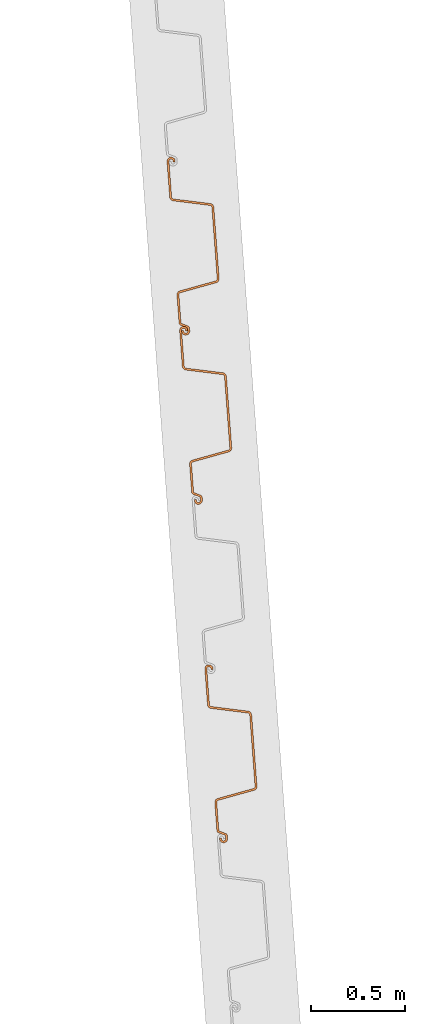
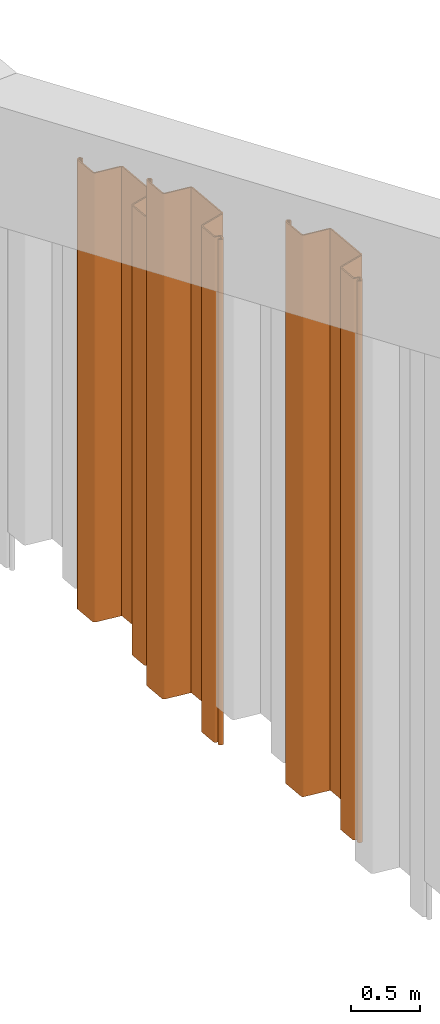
# One storey, part 7 of 15: 3 proxies.
"""IFC2X3 building model written with IfcOpenShell, lengths in millimetres."""

from ifc_helpers import new_model, entity, si_unit, converted_unit, derived_unit, direction, frame, frame_2d, origin, place, context, subcontext, project, spatial, polyline, circle_curve, parameter, trimmed, segment, composite_curve, outline, extrude, source, transform, mapped, material, type_object, type_shapes, element, save


model = new_model("IFC2X3")

# Units and contexts
model_context = context("Model", 3, precision=0.01, world=origin(), true_north=direction((6.12303176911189e-17, 1.0)))
body_context = subcontext(model_context, "Body", "Model", "MODEL_VIEW")
ifc_project = project(units=[si_unit("LENGTHUNIT", "METRE", prefix="MILLI"), si_unit("AREAUNIT", "SQUARE_METRE"), si_unit("VOLUMEUNIT", "CUBIC_METRE"), converted_unit("PLANEANGLEUNIT", "DEGREE", entity("IfcRatioMeasure", 0.0174532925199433), si_unit("PLANEANGLEUNIT", "RADIAN"), dimensions=[0, 0, 0, 0, 0, 0, 0]), si_unit("MASSUNIT", "GRAM", prefix="KILO"), derived_unit("MASSDENSITYUNIT", [(si_unit("MASSUNIT", "GRAM", prefix="KILO"), 1), (si_unit("LENGTHUNIT", "METRE"), -3)]), derived_unit("MOMENTOFINERTIAUNIT", [(si_unit("LENGTHUNIT", "METRE"), 4)]), si_unit("TIMEUNIT", "SECOND"), si_unit("FREQUENCYUNIT", "HERTZ"), si_unit("THERMODYNAMICTEMPERATUREUNIT", "DEGREE_CELSIUS"), derived_unit("THERMALTRANSMITTANCEUNIT", [(si_unit("MASSUNIT", "GRAM", prefix="KILO"), 1), (si_unit("THERMODYNAMICTEMPERATUREUNIT", "KELVIN"), -1), (si_unit("TIMEUNIT", "SECOND"), -3)]), derived_unit("VOLUMETRICFLOWRATEUNIT", [(si_unit("LENGTHUNIT", "METRE"), 3), (si_unit("TIMEUNIT", "SECOND"), -1)]), si_unit("ELECTRICCURRENTUNIT", "AMPERE"), si_unit("ELECTRICVOLTAGEUNIT", "VOLT"), si_unit("POWERUNIT", "WATT"), si_unit("FORCEUNIT", "NEWTON", prefix="KILO"), si_unit("ILLUMINANCEUNIT", "LUX"), si_unit("LUMINOUSFLUXUNIT", "LUMEN"), si_unit("LUMINOUSINTENSITYUNIT", "CANDELA"), derived_unit("USERDEFINED", [(si_unit("MASSUNIT", "GRAM", prefix="KILO"), -1), (si_unit("LENGTHUNIT", "METRE"), -2), (si_unit("TIMEUNIT", "SECOND"), 3), (si_unit("LUMINOUSFLUXUNIT", "LUMEN"), 1)]), derived_unit("LINEARVELOCITYUNIT", [(si_unit("LENGTHUNIT", "METRE"), 1), (si_unit("TIMEUNIT", "SECOND"), -1)]), si_unit("PRESSUREUNIT", "PASCAL"), derived_unit("USERDEFINED", [(si_unit("LENGTHUNIT", "METRE"), -2), (si_unit("MASSUNIT", "GRAM", prefix="KILO"), 1), (si_unit("TIMEUNIT", "SECOND"), -2)]), derived_unit("LINEARFORCEUNIT", [(si_unit("MASSUNIT", "GRAM", prefix="KILO"), 1), (si_unit("LENGTHUNIT", "METRE"), 1), (si_unit("TIMEUNIT", "SECOND"), -2), (si_unit("LENGTHUNIT", "METRE"), -1)]), derived_unit("PLANARFORCEUNIT", [(si_unit("MASSUNIT", "GRAM", prefix="KILO"), 1), (si_unit("LENGTHUNIT", "METRE"), 1), (si_unit("TIMEUNIT", "SECOND"), -2), (si_unit("LENGTHUNIT", "METRE"), -2)])], contexts=[model_context])

# Site, building, storey
site_placement = place(None, origin())
site = spatial("IfcSite", under=ifc_project, at=site_placement, Name="Default", CompositionType="ELEMENT")
building_placement = place(site_placement, origin())
building = spatial("IfcBuilding", under=site, at=building_placement, CompositionType="ELEMENT")
storey_placement = place(building_placement, frame((0.0, 0.0, 9500.0)))
storey = spatial("IfcBuildingStorey", under=building, at=storey_placement, Name="AP+9.500", CompositionType="ELEMENT", Elevation=9500.0)

# Proxies
ifc_material = material(Name="<Unnamed>")
building_element_proxy_type_1 = type_object("IfcBuildingElementProxyType", Name="鋼矢板10H型:鋼矢板10H型", PredefinedType="NOTDEFINED", material=ifc_material)
shared_shape_1 = source(origin(), body_context, "Body", "SweptSolid", [
    extrude(outline(composite_curve([segment(trimmed(circle_curve(frame_2d((85.3662976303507, 306.644432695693), x_axis=(0.422618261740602, 0.906307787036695)), 13.885714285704), [parameter(24.9999999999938)], [parameter(90.0000000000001)], True, "PARAMETER"), True, "CONTINUOUS"), segment(polyline([(72.7815666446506, 312.512789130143), (9.8129512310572, 177.476157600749)]), True, "CONTINUOUS"), segment(trimmed(circle_curve(frame_2d((29.3891994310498, 168.347603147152), x_axis=(0.422618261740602, 0.906307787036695)), 21.6), [parameter(90.0000000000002)], [parameter(168.69006752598)], True, "PARAMETER"), True, "CONTINUOUS"), segment(polyline([(16.598697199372, 150.941769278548), (175.329723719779, 34.2998683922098)]), True, "CONTINUOUS"), segment(trimmed(circle_curve(frame_2d((168.93447260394, 25.596951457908), x_axis=(0.422618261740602, 0.906307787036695)), 10.7999999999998), [parameter(270.0)], [parameter(348.690067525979)], True, "PARAMETER"), False, "CONTINUOUS"), segment(polyline([(178.722596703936, 21.0326742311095), (18.2974003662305, -323.000269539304)]), True, "CONTINUOUS"), segment(trimmed(circle_curve(frame_2d((8.50927626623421, -318.435992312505), x_axis=(0.422618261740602, 0.906307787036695)), 10.8), [parameter(191.30993247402)], [parameter(269.999999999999)], True, "PARAMETER"), False, "CONTINUOUS"), segment(polyline([(5.95324328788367, -328.929166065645), (-185.429973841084, -282.310113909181)]), True, "CONTINUOUS"), segment(trimmed(circle_curve(frame_2d((-190.542039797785, -303.296461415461), x_axis=(0.422618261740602, 0.906307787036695)), 21.6000000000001), [parameter(11.3099324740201)], [parameter(90.0000000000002)], True, "PARAMETER"), True, "CONTINUOUS"), segment(polyline([(-210.118287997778, -294.167906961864), (-290.330886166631, -466.184378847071)]), True, "CONTINUOUS"), segment(trimmed(circle_curve(frame_2d((-270.754637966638, -475.312933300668), x_axis=(0.422618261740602, 0.906307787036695)), 21.6), [parameter(90.0000000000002)], [parameter(269.999999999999)], True, "PARAMETER"), True, "CONTINUOUS"), segment(polyline([(-251.178389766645, -484.441487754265), (-249.065298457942, -479.909948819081)]), True, "CONTINUOUS"), segment(polyline([(-249.065298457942, -479.909948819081), (-258.853422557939, -475.345671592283)]), True, "CONTINUOUS"), segment(polyline([(-258.853422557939, -475.345671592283), (-260.966513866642, -479.877210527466)]), True, "CONTINUOUS"), segment(trimmed(circle_curve(frame_2d((-270.754637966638, -475.312933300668), x_axis=(0.422618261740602, 0.906307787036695)), 10.8), [parameter(90.0000000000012)], [parameter(270.0)], True, "PARAMETER"), False, "CONTINUOUS"), segment(polyline([(-280.542762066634, -470.748656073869), (-200.330163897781, -298.732184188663)]), True, "CONTINUOUS"), segment(trimmed(circle_curve(frame_2d((-190.542039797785, -303.296461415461), x_axis=(0.422618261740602, 0.906307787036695)), 10.8), [parameter(11.3099324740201)], [parameter(89.9999999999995)], True, "PARAMETER"), False, "CONTINUOUS"), segment(polyline([(-187.986006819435, -292.803287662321), (3.39721030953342, -339.422339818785)]), True, "CONTINUOUS"), segment(trimmed(circle_curve(frame_2d((8.50927626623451, -318.435992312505), x_axis=(0.422618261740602, 0.906307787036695)), 21.6), [parameter(191.30993247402)], [parameter(270.0)], True, "PARAMETER"), True, "CONTINUOUS"), segment(polyline([(28.0855244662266, -327.564546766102), (188.510720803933, 16.4683970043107)]), True, "CONTINUOUS"), segment(trimmed(circle_curve(frame_2d((168.93447260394, 25.5969514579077), x_axis=(0.422618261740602, 0.906307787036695)), 21.6), [parameter(270.0)], [parameter(348.69006752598)], True, "PARAMETER"), True, "CONTINUOUS"), segment(polyline([(181.724974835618, 43.0027853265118), (22.9939483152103, 159.644686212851)]), True, "CONTINUOUS"), segment(trimmed(circle_curve(frame_2d((29.3891994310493, 168.347603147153), x_axis=(0.422618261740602, 0.906307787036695)), 10.7999999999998), [parameter(89.9999999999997)], [parameter(168.690067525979)], True, "PARAMETER"), False, "CONTINUOUS"), segment(polyline([(19.6010753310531, 172.911880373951), (82.5696907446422, 307.948511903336)]), True, "CONTINUOUS"), segment(trimmed(circle_curve(frame_2d((85.3662976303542, 306.64443269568), x_axis=(0.422618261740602, 0.906307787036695)), 3.08571428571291), [parameter(25.0000000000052)], [parameter(90.0000000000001)], True, "PARAMETER"), False, "CONTINUOUS"), segment(polyline([(85.3662976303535, 309.730146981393), (122.220231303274, 309.730146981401)]), True, "CONTINUOUS"), segment(trimmed(circle_curve(frame_2d((122.220231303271, 323.615861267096), x_axis=(0.422618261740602, 0.906307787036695)), 13.8857142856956), [parameter(205.000000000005)], [parameter(270.0)], True, "PARAMETER"), True, "CONTINUOUS"), segment(polyline([(134.804962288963, 317.747504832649), (141.079261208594, 331.202782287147)]), True, "CONTINUOUS"), segment(trimmed(circle_curve(frame_2d((121.503013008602, 340.331336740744), x_axis=(0.422618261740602, 0.906307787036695)), 21.6), [parameter(270.0)], [parameter(90.0000000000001)], True, "PARAMETER"), True, "CONTINUOUS"), segment(polyline([(101.926764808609, 349.459891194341), (99.8136734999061, 344.928352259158)]), True, "CONTINUOUS"), segment(polyline([(99.8136734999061, 344.928352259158), (109.601797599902, 340.364075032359)]), True, "CONTINUOUS"), segment(polyline([(109.601797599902, 340.364075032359), (111.714888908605, 344.895613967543)]), True, "CONTINUOUS"), segment(trimmed(circle_curve(frame_2d((121.503013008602, 340.331336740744), x_axis=(0.422618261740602, 0.906307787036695)), 10.8), [parameter(270.0)], [parameter(89.9999999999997)], True, "PARAMETER"), False, "CONTINUOUS"), segment(polyline([(131.291137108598, 335.767059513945), (125.01683818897, 322.311782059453)]), True, "CONTINUOUS"), segment(trimmed(circle_curve(frame_2d((122.220231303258, 323.615861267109), x_axis=(0.422618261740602, 0.906307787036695)), 3.08571428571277), [parameter(204.999999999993)], [parameter(270.0)], True, "PARAMETER"), False, "CONTINUOUS"), segment(polyline([(122.220231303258, 320.530146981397), (85.3662976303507, 320.530146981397)]), True, "CONTINUOUS")], self_intersect=False)), frame((95.205667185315, -48.8888888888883, -4000.0), z_axis=(0.0, 0.0, -1.0), x_axis=(0.4226182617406, 0.906307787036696, 0.0)), (0.0, 0.0, -1.0), 4000.0),
])
type_shapes(building_element_proxy_type_1, [shared_shape_1])
proxy_1_placement = place(storey_placement, frame((-91534.076099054, 21988.8827639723, 137.165677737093), z_axis=(0.0, 0.0, 1.0), x_axis=(0.0743258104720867, -0.997234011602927, 0.0)))
element("IfcBuildingElementProxy", 1, at=proxy_1_placement, inside=storey, type_object=building_element_proxy_type_1, material=ifc_material, Name="鋼矢板10H型:鋼矢板10H型", ObjectType="鋼矢板10H型:鋼矢板10H型", context=body_context, shape_type="MappedRepresentation", body=[
    mapped(shared_shape_1, transform((0.0, 0.0, 0.0), scale=1.0)),
])
building_element_proxy_type_2 = type_object("IfcBuildingElementProxyType", Name="鋼矢板10H型:鋼矢板10H型", PredefinedType="NOTDEFINED", material=ifc_material)
shared_shape_2 = source(origin(), body_context, "Body", "SweptSolid", [
    extrude(outline(composite_curve([segment(trimmed(circle_curve(frame_2d((85.3662976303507, 306.644432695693), x_axis=(0.422618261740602, 0.906307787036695)), 13.885714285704), [parameter(24.9999999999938)], [parameter(90.0000000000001)], True, "PARAMETER"), True, "CONTINUOUS"), segment(polyline([(72.7815666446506, 312.512789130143), (9.8129512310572, 177.476157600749)]), True, "CONTINUOUS"), segment(trimmed(circle_curve(frame_2d((29.3891994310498, 168.347603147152), x_axis=(0.422618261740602, 0.906307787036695)), 21.6), [parameter(90.0000000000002)], [parameter(168.69006752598)], True, "PARAMETER"), True, "CONTINUOUS"), segment(polyline([(16.598697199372, 150.941769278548), (175.329723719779, 34.2998683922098)]), True, "CONTINUOUS"), segment(trimmed(circle_curve(frame_2d((168.93447260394, 25.596951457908), x_axis=(0.422618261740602, 0.906307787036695)), 10.7999999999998), [parameter(270.0)], [parameter(348.690067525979)], True, "PARAMETER"), False, "CONTINUOUS"), segment(polyline([(178.722596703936, 21.0326742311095), (18.2974003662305, -323.000269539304)]), True, "CONTINUOUS"), segment(trimmed(circle_curve(frame_2d((8.50927626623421, -318.435992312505), x_axis=(0.422618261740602, 0.906307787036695)), 10.8), [parameter(191.30993247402)], [parameter(269.999999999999)], True, "PARAMETER"), False, "CONTINUOUS"), segment(polyline([(5.95324328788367, -328.929166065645), (-185.429973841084, -282.310113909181)]), True, "CONTINUOUS"), segment(trimmed(circle_curve(frame_2d((-190.542039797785, -303.296461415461), x_axis=(0.422618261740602, 0.906307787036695)), 21.6000000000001), [parameter(11.3099324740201)], [parameter(90.0000000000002)], True, "PARAMETER"), True, "CONTINUOUS"), segment(polyline([(-210.118287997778, -294.167906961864), (-290.330886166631, -466.184378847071)]), True, "CONTINUOUS"), segment(trimmed(circle_curve(frame_2d((-270.754637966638, -475.312933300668), x_axis=(0.422618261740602, 0.906307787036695)), 21.6), [parameter(90.0000000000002)], [parameter(269.999999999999)], True, "PARAMETER"), True, "CONTINUOUS"), segment(polyline([(-251.178389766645, -484.441487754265), (-249.065298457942, -479.909948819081)]), True, "CONTINUOUS"), segment(polyline([(-249.065298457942, -479.909948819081), (-258.853422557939, -475.345671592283)]), True, "CONTINUOUS"), segment(polyline([(-258.853422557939, -475.345671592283), (-260.966513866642, -479.877210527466)]), True, "CONTINUOUS"), segment(trimmed(circle_curve(frame_2d((-270.754637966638, -475.312933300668), x_axis=(0.422618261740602, 0.906307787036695)), 10.8), [parameter(90.0000000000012)], [parameter(270.0)], True, "PARAMETER"), False, "CONTINUOUS"), segment(polyline([(-280.542762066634, -470.748656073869), (-200.330163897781, -298.732184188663)]), True, "CONTINUOUS"), segment(trimmed(circle_curve(frame_2d((-190.542039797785, -303.296461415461), x_axis=(0.422618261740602, 0.906307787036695)), 10.8), [parameter(11.3099324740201)], [parameter(89.9999999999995)], True, "PARAMETER"), False, "CONTINUOUS"), segment(polyline([(-187.986006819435, -292.803287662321), (3.39721030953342, -339.422339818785)]), True, "CONTINUOUS"), segment(trimmed(circle_curve(frame_2d((8.50927626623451, -318.435992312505), x_axis=(0.422618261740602, 0.906307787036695)), 21.6), [parameter(191.30993247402)], [parameter(270.0)], True, "PARAMETER"), True, "CONTINUOUS"), segment(polyline([(28.0855244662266, -327.564546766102), (188.510720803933, 16.4683970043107)]), True, "CONTINUOUS"), segment(trimmed(circle_curve(frame_2d((168.93447260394, 25.5969514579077), x_axis=(0.422618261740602, 0.906307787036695)), 21.6), [parameter(270.0)], [parameter(348.69006752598)], True, "PARAMETER"), True, "CONTINUOUS"), segment(polyline([(181.724974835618, 43.0027853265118), (22.9939483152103, 159.644686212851)]), True, "CONTINUOUS"), segment(trimmed(circle_curve(frame_2d((29.3891994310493, 168.347603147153), x_axis=(0.422618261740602, 0.906307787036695)), 10.7999999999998), [parameter(89.9999999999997)], [parameter(168.690067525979)], True, "PARAMETER"), False, "CONTINUOUS"), segment(polyline([(19.6010753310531, 172.911880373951), (82.5696907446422, 307.948511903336)]), True, "CONTINUOUS"), segment(trimmed(circle_curve(frame_2d((85.3662976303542, 306.64443269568), x_axis=(0.422618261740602, 0.906307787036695)), 3.08571428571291), [parameter(25.0000000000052)], [parameter(90.0000000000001)], True, "PARAMETER"), False, "CONTINUOUS"), segment(polyline([(85.3662976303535, 309.730146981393), (122.220231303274, 309.730146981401)]), True, "CONTINUOUS"), segment(trimmed(circle_curve(frame_2d((122.220231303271, 323.615861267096), x_axis=(0.422618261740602, 0.906307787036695)), 13.8857142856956), [parameter(205.000000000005)], [parameter(270.0)], True, "PARAMETER"), True, "CONTINUOUS"), segment(polyline([(134.804962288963, 317.747504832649), (141.079261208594, 331.202782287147)]), True, "CONTINUOUS"), segment(trimmed(circle_curve(frame_2d((121.503013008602, 340.331336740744), x_axis=(0.422618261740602, 0.906307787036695)), 21.6), [parameter(270.0)], [parameter(90.0000000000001)], True, "PARAMETER"), True, "CONTINUOUS"), segment(polyline([(101.926764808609, 349.459891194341), (99.8136734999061, 344.928352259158)]), True, "CONTINUOUS"), segment(polyline([(99.8136734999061, 344.928352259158), (109.601797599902, 340.364075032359)]), True, "CONTINUOUS"), segment(polyline([(109.601797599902, 340.364075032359), (111.714888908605, 344.895613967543)]), True, "CONTINUOUS"), segment(trimmed(circle_curve(frame_2d((121.503013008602, 340.331336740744), x_axis=(0.422618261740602, 0.906307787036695)), 10.8), [parameter(270.0)], [parameter(89.9999999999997)], True, "PARAMETER"), False, "CONTINUOUS"), segment(polyline([(131.291137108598, 335.767059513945), (125.01683818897, 322.311782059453)]), True, "CONTINUOUS"), segment(trimmed(circle_curve(frame_2d((122.220231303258, 323.615861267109), x_axis=(0.422618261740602, 0.906307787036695)), 3.08571428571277), [parameter(204.999999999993)], [parameter(270.0)], True, "PARAMETER"), False, "CONTINUOUS"), segment(polyline([(122.220231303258, 320.530146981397), (85.3662976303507, 320.530146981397)]), True, "CONTINUOUS")], self_intersect=False)), frame((95.205667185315, -48.8888888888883, -4500.0), z_axis=(0.0, 0.0, -1.0), x_axis=(0.4226182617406, 0.906307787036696, 0.0)), (0.0, 0.0, -1.0), 4500.0),
])
type_shapes(building_element_proxy_type_2, [shared_shape_2])
proxy_2_placement = place(storey_placement, frame((-91467.1828696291, 21091.3721535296, 473.309702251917), z_axis=(0.0, 0.0, 1.0), x_axis=(0.0743258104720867, -0.997234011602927, 0.0)))
element("IfcBuildingElementProxy", 2, at=proxy_2_placement, inside=storey, type_object=building_element_proxy_type_2, material=ifc_material, Name="鋼矢板10H型:鋼矢板10H型", ObjectType="鋼矢板10H型:鋼矢板10H型", context=body_context, shape_type="MappedRepresentation", body=[
    mapped(shared_shape_2, transform((0.0, 0.0, 0.0), scale=1.0)),
])
building_element_proxy_type_3 = type_object("IfcBuildingElementProxyType", Name="鋼矢板10H型:鋼矢板10H型", PredefinedType="NOTDEFINED", material=ifc_material)
shared_shape_3 = source(origin(), body_context, "Body", "SweptSolid", [
    extrude(outline(composite_curve([segment(trimmed(circle_curve(frame_2d((85.3662976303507, 306.644432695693), x_axis=(0.422618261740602, 0.906307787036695)), 13.885714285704), [parameter(24.9999999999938)], [parameter(90.0000000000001)], True, "PARAMETER"), True, "CONTINUOUS"), segment(polyline([(72.7815666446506, 312.512789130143), (9.8129512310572, 177.476157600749)]), True, "CONTINUOUS"), segment(trimmed(circle_curve(frame_2d((29.3891994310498, 168.347603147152), x_axis=(0.422618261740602, 0.906307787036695)), 21.6), [parameter(90.0000000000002)], [parameter(168.69006752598)], True, "PARAMETER"), True, "CONTINUOUS"), segment(polyline([(16.598697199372, 150.941769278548), (175.329723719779, 34.2998683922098)]), True, "CONTINUOUS"), segment(trimmed(circle_curve(frame_2d((168.93447260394, 25.596951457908), x_axis=(0.422618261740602, 0.906307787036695)), 10.7999999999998), [parameter(270.0)], [parameter(348.690067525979)], True, "PARAMETER"), False, "CONTINUOUS"), segment(polyline([(178.722596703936, 21.0326742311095), (18.2974003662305, -323.000269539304)]), True, "CONTINUOUS"), segment(trimmed(circle_curve(frame_2d((8.50927626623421, -318.435992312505), x_axis=(0.422618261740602, 0.906307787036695)), 10.8), [parameter(191.30993247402)], [parameter(269.999999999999)], True, "PARAMETER"), False, "CONTINUOUS"), segment(polyline([(5.95324328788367, -328.929166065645), (-185.429973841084, -282.310113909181)]), True, "CONTINUOUS"), segment(trimmed(circle_curve(frame_2d((-190.542039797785, -303.296461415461), x_axis=(0.422618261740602, 0.906307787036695)), 21.6000000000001), [parameter(11.3099324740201)], [parameter(90.0000000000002)], True, "PARAMETER"), True, "CONTINUOUS"), segment(polyline([(-210.118287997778, -294.167906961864), (-290.330886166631, -466.184378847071)]), True, "CONTINUOUS"), segment(trimmed(circle_curve(frame_2d((-270.754637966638, -475.312933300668), x_axis=(0.422618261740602, 0.906307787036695)), 21.6), [parameter(90.0000000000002)], [parameter(269.999999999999)], True, "PARAMETER"), True, "CONTINUOUS"), segment(polyline([(-251.178389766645, -484.441487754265), (-249.065298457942, -479.909948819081)]), True, "CONTINUOUS"), segment(polyline([(-249.065298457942, -479.909948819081), (-258.853422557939, -475.345671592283)]), True, "CONTINUOUS"), segment(polyline([(-258.853422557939, -475.345671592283), (-260.966513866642, -479.877210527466)]), True, "CONTINUOUS"), segment(trimmed(circle_curve(frame_2d((-270.754637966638, -475.312933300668), x_axis=(0.422618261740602, 0.906307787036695)), 10.8), [parameter(90.0000000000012)], [parameter(270.0)], True, "PARAMETER"), False, "CONTINUOUS"), segment(polyline([(-280.542762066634, -470.748656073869), (-200.330163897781, -298.732184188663)]), True, "CONTINUOUS"), segment(trimmed(circle_curve(frame_2d((-190.542039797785, -303.296461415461), x_axis=(0.422618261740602, 0.906307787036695)), 10.8), [parameter(11.3099324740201)], [parameter(89.9999999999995)], True, "PARAMETER"), False, "CONTINUOUS"), segment(polyline([(-187.986006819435, -292.803287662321), (3.39721030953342, -339.422339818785)]), True, "CONTINUOUS"), segment(trimmed(circle_curve(frame_2d((8.50927626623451, -318.435992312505), x_axis=(0.422618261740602, 0.906307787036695)), 21.6), [parameter(191.30993247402)], [parameter(270.0)], True, "PARAMETER"), True, "CONTINUOUS"), segment(polyline([(28.0855244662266, -327.564546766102), (188.510720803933, 16.4683970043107)]), True, "CONTINUOUS"), segment(trimmed(circle_curve(frame_2d((168.93447260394, 25.5969514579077), x_axis=(0.422618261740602, 0.906307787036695)), 21.6), [parameter(270.0)], [parameter(348.69006752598)], True, "PARAMETER"), True, "CONTINUOUS"), segment(polyline([(181.724974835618, 43.0027853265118), (22.9939483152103, 159.644686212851)]), True, "CONTINUOUS"), segment(trimmed(circle_curve(frame_2d((29.3891994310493, 168.347603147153), x_axis=(0.422618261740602, 0.906307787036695)), 10.7999999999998), [parameter(89.9999999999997)], [parameter(168.690067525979)], True, "PARAMETER"), False, "CONTINUOUS"), segment(polyline([(19.6010753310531, 172.911880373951), (82.5696907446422, 307.948511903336)]), True, "CONTINUOUS"), segment(trimmed(circle_curve(frame_2d((85.3662976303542, 306.64443269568), x_axis=(0.422618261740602, 0.906307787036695)), 3.08571428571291), [parameter(25.0000000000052)], [parameter(90.0000000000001)], True, "PARAMETER"), False, "CONTINUOUS"), segment(polyline([(85.3662976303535, 309.730146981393), (122.220231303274, 309.730146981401)]), True, "CONTINUOUS"), segment(trimmed(circle_curve(frame_2d((122.220231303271, 323.615861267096), x_axis=(0.422618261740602, 0.906307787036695)), 13.8857142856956), [parameter(205.000000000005)], [parameter(270.0)], True, "PARAMETER"), True, "CONTINUOUS"), segment(polyline([(134.804962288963, 317.747504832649), (141.079261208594, 331.202782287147)]), True, "CONTINUOUS"), segment(trimmed(circle_curve(frame_2d((121.503013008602, 340.331336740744), x_axis=(0.422618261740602, 0.906307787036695)), 21.6), [parameter(270.0)], [parameter(90.0000000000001)], True, "PARAMETER"), True, "CONTINUOUS"), segment(polyline([(101.926764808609, 349.459891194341), (99.8136734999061, 344.928352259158)]), True, "CONTINUOUS"), segment(polyline([(99.8136734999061, 344.928352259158), (109.601797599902, 340.364075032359)]), True, "CONTINUOUS"), segment(polyline([(109.601797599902, 340.364075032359), (111.714888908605, 344.895613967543)]), True, "CONTINUOUS"), segment(trimmed(circle_curve(frame_2d((121.503013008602, 340.331336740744), x_axis=(0.422618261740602, 0.906307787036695)), 10.8), [parameter(270.0)], [parameter(89.9999999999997)], True, "PARAMETER"), False, "CONTINUOUS"), segment(polyline([(131.291137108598, 335.767059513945), (125.01683818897, 322.311782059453)]), True, "CONTINUOUS"), segment(trimmed(circle_curve(frame_2d((122.220231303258, 323.615861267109), x_axis=(0.422618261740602, 0.906307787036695)), 3.08571428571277), [parameter(204.999999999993)], [parameter(270.0)], True, "PARAMETER"), False, "CONTINUOUS"), segment(polyline([(122.220231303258, 320.530146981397), (85.3662976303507, 320.530146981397)]), True, "CONTINUOUS")], self_intersect=False)), frame((95.205667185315, -48.8888888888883, -5000.0), z_axis=(0.0, 0.0, -1.0), x_axis=(0.4226182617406, 0.906307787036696, 0.0)), (0.0, 0.0, -1.0), 5000.0),
])
type_shapes(building_element_proxy_type_3, [shared_shape_3])
proxy_3_placement = place(storey_placement, frame((-91333.3964107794, 19296.3509326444, 1145.59775128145), z_axis=(0.0, 0.0, 1.0), x_axis=(0.0743258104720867, -0.997234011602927, 0.0)))
element("IfcBuildingElementProxy", 3, at=proxy_3_placement, inside=storey, type_object=building_element_proxy_type_3, material=ifc_material, Name="鋼矢板10H型:鋼矢板10H型", ObjectType="鋼矢板10H型:鋼矢板10H型", context=body_context, shape_type="MappedRepresentation", body=[
    mapped(shared_shape_3, transform((0.0, 0.0, 0.0), scale=1.0)),
])

save(model, "model.ifc")
